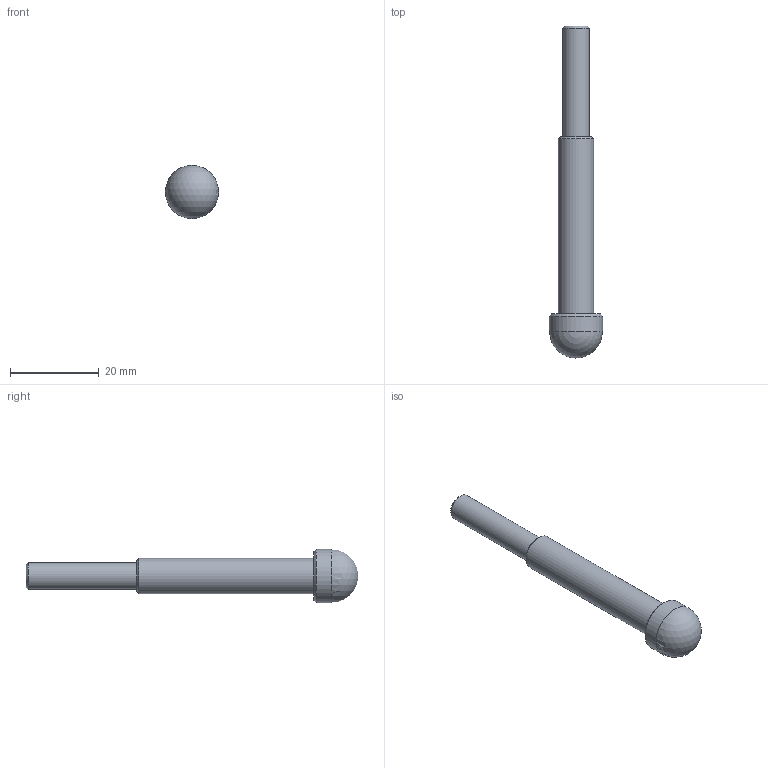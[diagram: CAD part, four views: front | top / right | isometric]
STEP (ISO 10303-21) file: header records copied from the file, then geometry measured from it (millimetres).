
FILE_DESCRIPTION(/* description */ (''),/* implementation_level */ '2;1');
FILE_NAME(/* name */ 'SYSTEM_SUPPORT_20.stp',/* time_stamp */ '2017-12-06T14:30:43+01:00',/* author */ (''),/* organization */ (''),/* preprocessor_version */ 'ST-DEVELOPER v16',/* originating_system */ 'SIEMENS PLM Software NX 10.0',/* authorisation */ '');
FILE_SCHEMA (('AP203_CONFIGURATION_CONTROLLED_3D_DESIGN_OF_MECHANICAL_PARTS_AND_ASSEMBLIES_MIM_LF { 1 0 10303 403 2 1 2}'));
Length unit declared in the file: millimetre
Products named in the file (1): turc1DB80072j4lm
Bounding box: 12 x 74.96 x 12 mm (x, y, z)
Volume: 3612.4 mm3; surface area: 1941.7 mm2
Topology: 1 solids, 1 shells, 10 faces, 21 edges, 13 vertices
Faces by surface type: plane 3, cylinder 3, cone 3, sphere 1
Full cylindrical faces by diameter (mm): 6 x1, 8 x1, 12 x1
Entity records: 299 total; most frequent: DIRECTION 44, CARTESIAN_POINT 31, AXIS2_PLACEMENT_3D 22, EDGE_LOOP 18, ORIENTED_EDGE 18, FACE_BOUND 16, CIRCLE 11, ADVANCED_FACE 10
